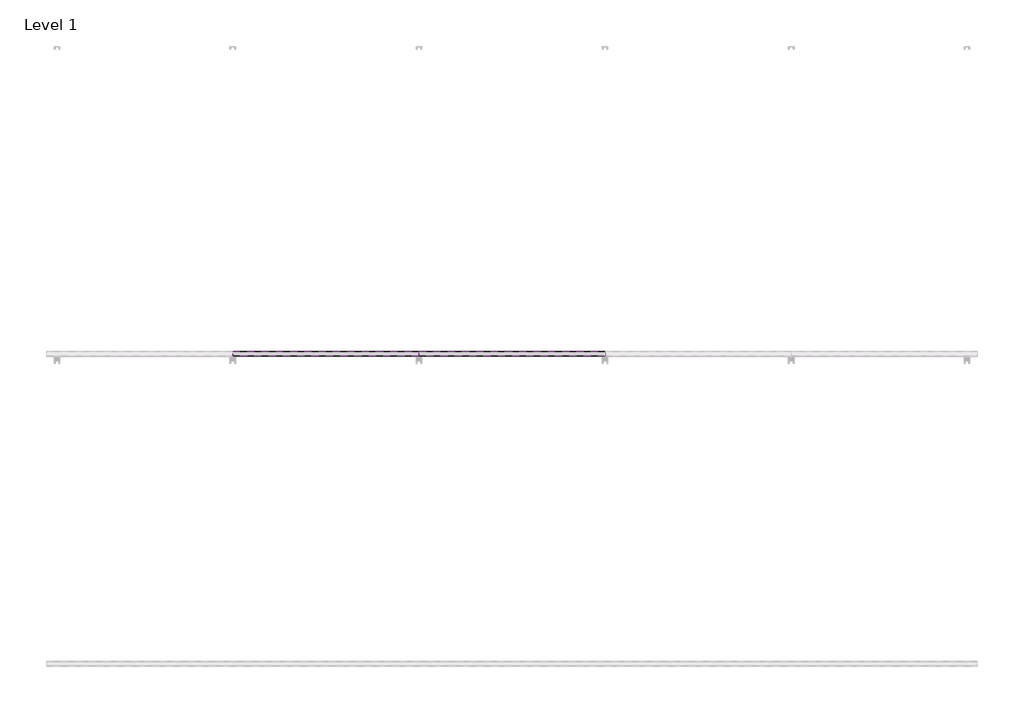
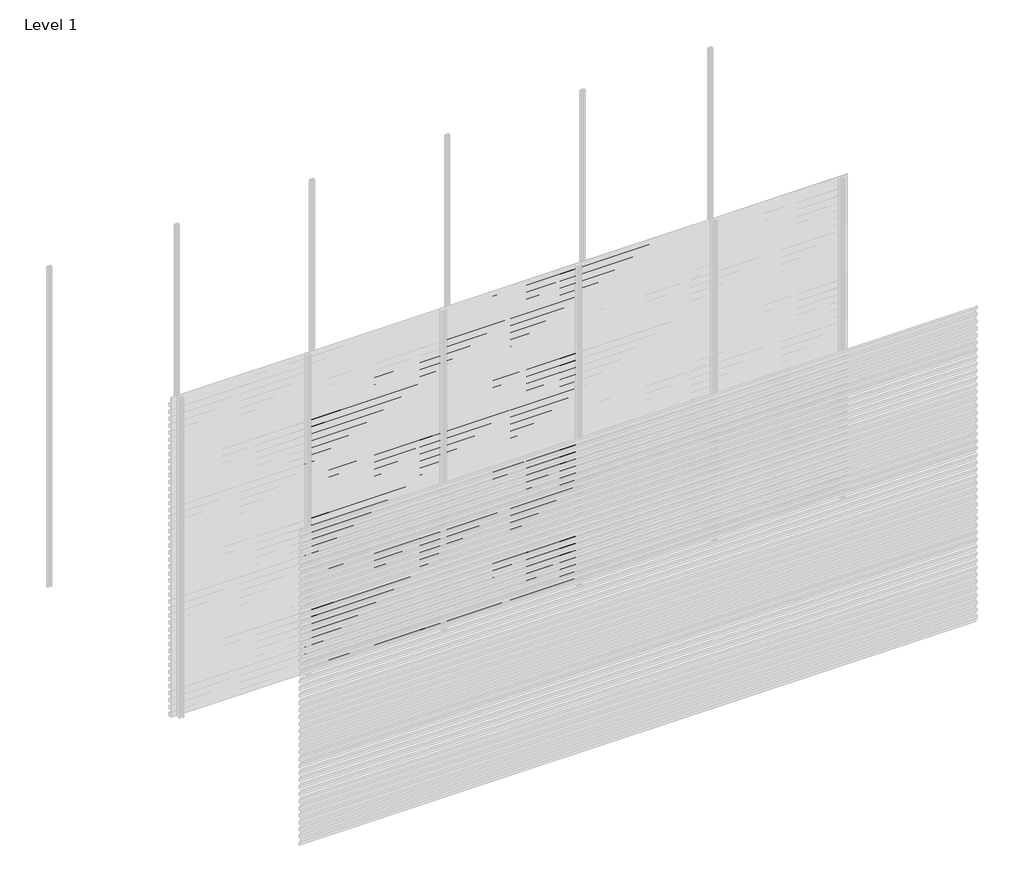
# One storey, part 26 of 33: 88 proxies.
"""IFC4 building model written with IfcOpenShell, lengths in millimetres."""

from ifc_helpers import new_model, si_unit, frame, origin, place, context, project, spatial, polyline, outline, extrude, element, save

model = new_model("IFC4")

# Units and contexts
model_context = context("Model", 3, world=origin())
ifc_project = project(units=[si_unit("LENGTHUNIT", "METRE", prefix="MILLI")], contexts=[model_context])

# Site, building, storey
site = spatial("IfcSite", under=ifc_project)
building = spatial("IfcBuilding", under=site)
storey = spatial("IfcBuildingStorey", under=building, Name="Level 1", Elevation=0.0)

# Proxies
placement = place(None, origin())
element("IfcBuildingElementProxy", 1, Name="Wall Sweeps", at=placement, inside=storey, context=model_context, shape_type="SweptSolid", body=[
    extrude(outline(polyline([(-11967.0, 2534.0), (-11967.0, 2501.0), (-11968.25, 2501.7216933), (-11968.25, 2533.2872415), (-11998.0, 2554.0588647), (-11998.0, 2574.0), (-11996.75, 2574.0), (-11996.75, 2554.7716232), (-11967.0, 2534.0)])), frame((1200.0, 0.0, 0.0), z_axis=(1.0, 0.0, 0.0), x_axis=(0.0, 1.0, 0.0)), (0.0, 0.0, 1.0), 1200.0),
])
element("IfcBuildingElementProxy", 2, Name="Wall Sweeps", at=placement, inside=storey, context=model_context, shape_type="SweptSolid", body=[
    extrude(outline(polyline([(-11967.0, 2468.0), (-11967.0, 2435.0), (-11968.25, 2435.7216933), (-11968.25, 2467.2872415), (-11998.0, 2488.0588647), (-11998.0, 2508.0), (-11996.75, 2508.0), (-11996.75, 2488.7716232), (-11967.0, 2468.0)])), frame((1200.0, 0.0, 0.0), z_axis=(1.0, 0.0, 0.0), x_axis=(0.0, 1.0, 0.0)), (0.0, 0.0, 1.0), 1200.0),
])
element("IfcBuildingElementProxy", 3, Name="Wall Sweeps", at=placement, inside=storey, context=model_context, shape_type="SweptSolid", body=[
    extrude(outline(polyline([(-11967.0, 2402.0), (-11967.0, 2369.0), (-11968.25, 2369.7216933), (-11968.25, 2401.2872415), (-11998.0, 2422.0588647), (-11998.0, 2442.0), (-11996.75, 2442.0), (-11996.75, 2422.7716232), (-11967.0, 2402.0)])), frame((1200.0, 0.0, 0.0), z_axis=(1.0, 0.0, 0.0), x_axis=(0.0, 1.0, 0.0)), (0.0, 0.0, 1.0), 1200.0),
])
element("IfcBuildingElementProxy", 4, Name="Wall Sweeps", at=placement, inside=storey, context=model_context, shape_type="SweptSolid", body=[
    extrude(outline(polyline([(-11967.0, 2336.0), (-11967.0, 2303.0), (-11968.25, 2303.7216933), (-11968.25, 2335.2872415), (-11998.0, 2356.0588647), (-11998.0, 2376.0), (-11996.75, 2376.0), (-11996.75, 2356.7716232), (-11967.0, 2336.0)])), frame((1200.0, 0.0, 0.0), z_axis=(1.0, 0.0, 0.0), x_axis=(0.0, 1.0, 0.0)), (0.0, 0.0, 1.0), 1200.0),
])
element("IfcBuildingElementProxy", 5, Name="Wall Sweeps", at=placement, inside=storey, context=model_context, shape_type="SweptSolid", body=[
    extrude(outline(polyline([(-11967.0, 2270.0), (-11967.0, 2237.0), (-11968.25, 2237.7216933), (-11968.25, 2269.2872415), (-11998.0, 2290.0588647), (-11998.0, 2310.0), (-11996.75, 2310.0), (-11996.75, 2290.7716232), (-11967.0, 2270.0)])), frame((1200.0, 0.0, 0.0), z_axis=(1.0, 0.0, 0.0), x_axis=(0.0, 1.0, 0.0)), (0.0, 0.0, 1.0), 1200.0),
])
element("IfcBuildingElementProxy", 6, Name="Wall Sweeps", at=placement, inside=storey, context=model_context, shape_type="SweptSolid", body=[
    extrude(outline(polyline([(-11967.0, 2204.0), (-11967.0, 2171.0), (-11968.25, 2171.7216933), (-11968.25, 2203.2872415), (-11998.0, 2224.0588647), (-11998.0, 2244.0), (-11996.75, 2244.0), (-11996.75, 2224.7716232), (-11967.0, 2204.0)])), frame((1200.0, 0.0, 0.0), z_axis=(1.0, 0.0, 0.0), x_axis=(0.0, 1.0, 0.0)), (0.0, 0.0, 1.0), 1200.0),
])
element("IfcBuildingElementProxy", 7, Name="Wall Sweeps", at=placement, inside=storey, context=model_context, shape_type="SweptSolid", body=[
    extrude(outline(polyline([(-11967.0, 2138.0), (-11967.0, 2105.0), (-11968.25, 2105.7216933), (-11968.25, 2137.2872415), (-11998.0, 2158.0588647), (-11998.0, 2178.0), (-11996.75, 2178.0), (-11996.75, 2158.7716232), (-11967.0, 2138.0)])), frame((1200.0, 0.0, 0.0), z_axis=(1.0, 0.0, 0.0), x_axis=(0.0, 1.0, 0.0)), (0.0, 0.0, 1.0), 1200.0),
])
element("IfcBuildingElementProxy", 8, Name="Wall Sweeps", at=placement, inside=storey, context=model_context, shape_type="SweptSolid", body=[
    extrude(outline(polyline([(-11967.0, 2072.0), (-11967.0, 2039.0), (-11968.25, 2039.7216933), (-11968.25, 2071.2872415), (-11998.0, 2092.0588647), (-11998.0, 2112.0), (-11996.75, 2112.0), (-11996.75, 2092.7716232), (-11967.0, 2072.0)])), frame((1200.0, 0.0, 0.0), z_axis=(1.0, 0.0, 0.0), x_axis=(0.0, 1.0, 0.0)), (0.0, 0.0, 1.0), 1200.0),
])
element("IfcBuildingElementProxy", 9, Name="Wall Sweeps", at=placement, inside=storey, context=model_context, shape_type="SweptSolid", body=[
    extrude(outline(polyline([(-11967.0, 2006.0), (-11967.0, 1973.0), (-11968.25, 1973.7216933), (-11968.25, 2005.2872415), (-11998.0, 2026.0588647), (-11998.0, 2046.0), (-11996.75, 2046.0), (-11996.75, 2026.7716232), (-11967.0, 2006.0)])), frame((1200.0, 0.0, 0.0), z_axis=(1.0, 0.0, 0.0), x_axis=(0.0, 1.0, 0.0)), (0.0, 0.0, 1.0), 1200.0),
])
element("IfcBuildingElementProxy", 10, Name="Wall Sweeps", at=placement, inside=storey, context=model_context, shape_type="SweptSolid", body=[
    extrude(outline(polyline([(-11967.0, 1940.0), (-11967.0, 1907.0), (-11968.25, 1907.7216933), (-11968.25, 1939.2872415), (-11998.0, 1960.0588647), (-11998.0, 1980.0), (-11996.75, 1980.0), (-11996.75, 1960.7716232), (-11967.0, 1940.0)])), frame((1200.0, 0.0, 0.0), z_axis=(1.0, 0.0, 0.0), x_axis=(0.0, 1.0, 0.0)), (0.0, 0.0, 1.0), 1200.0),
])
element("IfcBuildingElementProxy", 11, Name="Wall Sweeps", at=placement, inside=storey, context=model_context, shape_type="SweptSolid", body=[
    extrude(outline(polyline([(-11967.0, 1874.0), (-11967.0, 1841.0), (-11968.25, 1841.7216933), (-11968.25, 1873.2872415), (-11998.0, 1894.0588647), (-11998.0, 1914.0), (-11996.75, 1914.0), (-11996.75, 1894.7716232), (-11967.0, 1874.0)])), frame((1200.0, 0.0, 0.0), z_axis=(1.0, 0.0, 0.0), x_axis=(0.0, 1.0, 0.0)), (0.0, 0.0, 1.0), 1200.0),
])
element("IfcBuildingElementProxy", 12, Name="Wall Sweeps", at=placement, inside=storey, context=model_context, shape_type="SweptSolid", body=[
    extrude(outline(polyline([(-11967.0, 1808.0), (-11967.0, 1775.0), (-11968.25, 1775.7216933), (-11968.25, 1807.2872415), (-11998.0, 1828.0588647), (-11998.0, 1848.0), (-11996.75, 1848.0), (-11996.75, 1828.7716232), (-11967.0, 1808.0)])), frame((1200.0, 0.0, 0.0), z_axis=(1.0, 0.0, 0.0), x_axis=(0.0, 1.0, 0.0)), (0.0, 0.0, 1.0), 1200.0),
])
element("IfcBuildingElementProxy", 13, Name="Wall Sweeps", at=placement, inside=storey, context=model_context, shape_type="SweptSolid", body=[
    extrude(outline(polyline([(-11967.0, 1742.0), (-11967.0, 1709.0), (-11968.25, 1709.7216933), (-11968.25, 1741.2872415), (-11998.0, 1762.0588647), (-11998.0, 1782.0), (-11996.75, 1782.0), (-11996.75, 1762.7716232), (-11967.0, 1742.0)])), frame((1200.0, 0.0, 0.0), z_axis=(1.0, 0.0, 0.0), x_axis=(0.0, 1.0, 0.0)), (0.0, 0.0, 1.0), 1200.0),
])
element("IfcBuildingElementProxy", 14, Name="Wall Sweeps", at=placement, inside=storey, context=model_context, shape_type="SweptSolid", body=[
    extrude(outline(polyline([(-11967.0, 1676.0), (-11967.0, 1643.0), (-11968.25, 1643.7216933), (-11968.25, 1675.2872415), (-11998.0, 1696.0588647), (-11998.0, 1716.0), (-11996.75, 1716.0), (-11996.75, 1696.7716232), (-11967.0, 1676.0)])), frame((1200.0, 0.0, 0.0), z_axis=(1.0, 0.0, 0.0), x_axis=(0.0, 1.0, 0.0)), (0.0, 0.0, 1.0), 1200.0),
])
element("IfcBuildingElementProxy", 15, Name="Wall Sweeps", at=placement, inside=storey, context=model_context, shape_type="SweptSolid", body=[
    extrude(outline(polyline([(-11967.0, 1610.0), (-11967.0, 1577.0), (-11968.25, 1577.7216933), (-11968.25, 1609.2872415), (-11998.0, 1630.0588647), (-11998.0, 1650.0), (-11996.75, 1650.0), (-11996.75, 1630.7716232), (-11967.0, 1610.0)])), frame((1200.0, 0.0, 0.0), z_axis=(1.0, 0.0, 0.0), x_axis=(0.0, 1.0, 0.0)), (0.0, 0.0, 1.0), 1200.0),
])
element("IfcBuildingElementProxy", 16, Name="Wall Sweeps", at=placement, inside=storey, context=model_context, shape_type="SweptSolid", body=[
    extrude(outline(polyline([(-11967.0, 1544.0), (-11967.0, 1511.0), (-11968.25, 1511.7216933), (-11968.25, 1543.2872415), (-11998.0, 1564.0588647), (-11998.0, 1584.0), (-11996.75, 1584.0), (-11996.75, 1564.7716232), (-11967.0, 1544.0)])), frame((1200.0, 0.0, 0.0), z_axis=(1.0, 0.0, 0.0), x_axis=(0.0, 1.0, 0.0)), (0.0, 0.0, 1.0), 1200.0),
])
element("IfcBuildingElementProxy", 17, Name="Wall Sweeps", at=placement, inside=storey, context=model_context, shape_type="SweptSolid", body=[
    extrude(outline(polyline([(-11967.0, 1478.0), (-11967.0, 1445.0), (-11968.25, 1445.7216933), (-11968.25, 1477.2872415), (-11998.0, 1498.0588647), (-11998.0, 1518.0), (-11996.75, 1518.0), (-11996.75, 1498.7716232), (-11967.0, 1478.0)])), frame((1200.0, 0.0, 0.0), z_axis=(1.0, 0.0, 0.0), x_axis=(0.0, 1.0, 0.0)), (0.0, 0.0, 1.0), 1200.0),
])
element("IfcBuildingElementProxy", 18, Name="Wall Sweeps", at=placement, inside=storey, context=model_context, shape_type="SweptSolid", body=[
    extrude(outline(polyline([(-11967.0, 1412.0), (-11967.0, 1379.0), (-11968.25, 1379.7216933), (-11968.25, 1411.2872415), (-11998.0, 1432.0588647), (-11998.0, 1452.0), (-11996.75, 1452.0), (-11996.75, 1432.7716232), (-11967.0, 1412.0)])), frame((1200.0, 0.0, 0.0), z_axis=(1.0, 0.0, 0.0), x_axis=(0.0, 1.0, 0.0)), (0.0, 0.0, 1.0), 1200.0),
])
element("IfcBuildingElementProxy", 19, Name="Wall Sweeps", at=placement, inside=storey, context=model_context, shape_type="SweptSolid", body=[
    extrude(outline(polyline([(-11967.0, 1346.0), (-11967.0, 1313.0), (-11968.25, 1313.7216933), (-11968.25, 1345.2872415), (-11998.0, 1366.0588647), (-11998.0, 1386.0), (-11996.75, 1386.0), (-11996.75, 1366.7716232), (-11967.0, 1346.0)])), frame((1200.0, 0.0, 0.0), z_axis=(1.0, 0.0, 0.0), x_axis=(0.0, 1.0, 0.0)), (0.0, 0.0, 1.0), 1200.0),
])
element("IfcBuildingElementProxy", 20, Name="Wall Sweeps", at=placement, inside=storey, context=model_context, shape_type="SweptSolid", body=[
    extrude(outline(polyline([(-11967.0, 1280.0), (-11967.0, 1247.0), (-11968.25, 1247.7216933), (-11968.25, 1279.2872415), (-11998.0, 1300.0588647), (-11998.0, 1320.0), (-11996.75, 1320.0), (-11996.75, 1300.7716232), (-11967.0, 1280.0)])), frame((1200.0, 0.0, 0.0), z_axis=(1.0, 0.0, 0.0), x_axis=(0.0, 1.0, 0.0)), (0.0, 0.0, 1.0), 1200.0),
])
element("IfcBuildingElementProxy", 21, Name="Wall Sweeps", at=placement, inside=storey, context=model_context, shape_type="SweptSolid", body=[
    extrude(outline(polyline([(-11967.0, 1214.0), (-11967.0, 1181.0), (-11968.25, 1181.7216933), (-11968.25, 1213.2872415), (-11998.0, 1234.0588647), (-11998.0, 1254.0), (-11996.75, 1254.0), (-11996.75, 1234.7716232), (-11967.0, 1214.0)])), frame((1200.0, 0.0, 0.0), z_axis=(1.0, 0.0, 0.0), x_axis=(0.0, 1.0, 0.0)), (0.0, 0.0, 1.0), 1200.0),
])
element("IfcBuildingElementProxy", 22, Name="Wall Sweeps", at=placement, inside=storey, context=model_context, shape_type="SweptSolid", body=[
    extrude(outline(polyline([(-11967.0, 1148.0), (-11967.0, 1115.0), (-11968.25, 1115.7216933), (-11968.25, 1147.2872415), (-11998.0, 1168.0588647), (-11998.0, 1188.0), (-11996.75, 1188.0), (-11996.75, 1168.7716232), (-11967.0, 1148.0)])), frame((1200.0, 0.0, 0.0), z_axis=(1.0, 0.0, 0.0), x_axis=(0.0, 1.0, 0.0)), (0.0, 0.0, 1.0), 1200.0),
])
element("IfcBuildingElementProxy", 23, Name="Wall Sweeps", at=placement, inside=storey, context=model_context, shape_type="SweptSolid", body=[
    extrude(outline(polyline([(-11967.0, 1082.0), (-11967.0, 1049.0), (-11968.25, 1049.7216933), (-11968.25, 1081.2872415), (-11998.0, 1102.0588647), (-11998.0, 1122.0), (-11996.75, 1122.0), (-11996.75, 1102.7716232), (-11967.0, 1082.0)])), frame((1200.0, 0.0, 0.0), z_axis=(1.0, 0.0, 0.0), x_axis=(0.0, 1.0, 0.0)), (0.0, 0.0, 1.0), 1200.0),
])
element("IfcBuildingElementProxy", 24, Name="Wall Sweeps", at=placement, inside=storey, context=model_context, shape_type="SweptSolid", body=[
    extrude(outline(polyline([(-11967.0, 1016.0), (-11967.0, 983.0), (-11968.25, 983.7216933), (-11968.25, 1015.2872415), (-11998.0, 1036.0588647), (-11998.0, 1056.0), (-11996.75, 1056.0), (-11996.75, 1036.7716232), (-11967.0, 1016.0)])), frame((1200.0, 0.0, 0.0), z_axis=(1.0, 0.0, 0.0), x_axis=(0.0, 1.0, 0.0)), (0.0, 0.0, 1.0), 1200.0),
])
element("IfcBuildingElementProxy", 25, Name="Wall Sweeps", at=placement, inside=storey, context=model_context, shape_type="SweptSolid", body=[
    extrude(outline(polyline([(-11967.0, 950.0), (-11967.0, 917.0), (-11968.25, 917.7216933), (-11968.25, 949.2872415), (-11998.0, 970.0588647), (-11998.0, 990.0), (-11996.75, 990.0), (-11996.75, 970.7716232), (-11967.0, 950.0)])), frame((1200.0, 0.0, 0.0), z_axis=(1.0, 0.0, 0.0), x_axis=(0.0, 1.0, 0.0)), (0.0, 0.0, 1.0), 1200.0),
])
element("IfcBuildingElementProxy", 26, Name="Wall Sweeps", at=placement, inside=storey, context=model_context, shape_type="SweptSolid", body=[
    extrude(outline(polyline([(-11967.0, 884.0), (-11967.0, 851.0), (-11968.25, 851.7216933), (-11968.25, 883.2872415), (-11998.0, 904.0588647), (-11998.0, 924.0), (-11996.75, 924.0), (-11996.75, 904.7716232), (-11967.0, 884.0)])), frame((1200.0, 0.0, 0.0), z_axis=(1.0, 0.0, 0.0), x_axis=(0.0, 1.0, 0.0)), (0.0, 0.0, 1.0), 1200.0),
])
element("IfcBuildingElementProxy", 27, Name="Wall Sweeps", at=placement, inside=storey, context=model_context, shape_type="SweptSolid", body=[
    extrude(outline(polyline([(-11967.0, 818.0), (-11967.0, 785.0), (-11968.25, 785.7216933), (-11968.25, 817.2872415), (-11998.0, 838.0588647), (-11998.0, 858.0), (-11996.75, 858.0), (-11996.75, 838.7716232), (-11967.0, 818.0)])), frame((1200.0, 0.0, 0.0), z_axis=(1.0, 0.0, 0.0), x_axis=(0.0, 1.0, 0.0)), (0.0, 0.0, 1.0), 1200.0),
])
element("IfcBuildingElementProxy", 28, Name="Wall Sweeps", at=placement, inside=storey, context=model_context, shape_type="SweptSolid", body=[
    extrude(outline(polyline([(-11967.0, 752.0), (-11967.0, 719.0), (-11968.25, 719.7216933), (-11968.25, 751.2872415), (-11998.0, 772.0588647), (-11998.0, 792.0), (-11996.75, 792.0), (-11996.75, 772.7716232), (-11967.0, 752.0)])), frame((1200.0, 0.0, 0.0), z_axis=(1.0, 0.0, 0.0), x_axis=(0.0, 1.0, 0.0)), (0.0, 0.0, 1.0), 1200.0),
])
element("IfcBuildingElementProxy", 29, Name="Wall Sweeps", at=placement, inside=storey, context=model_context, shape_type="SweptSolid", body=[
    extrude(outline(polyline([(-11967.0, 686.0), (-11967.0, 653.0), (-11968.25, 653.7216933), (-11968.25, 685.2872415), (-11998.0, 706.0588647), (-11998.0, 726.0), (-11996.75, 726.0), (-11996.75, 706.7716232), (-11967.0, 686.0)])), frame((1200.0, 0.0, 0.0), z_axis=(1.0, 0.0, 0.0), x_axis=(0.0, 1.0, 0.0)), (0.0, 0.0, 1.0), 1200.0),
])
element("IfcBuildingElementProxy", 30, Name="Wall Sweeps", at=placement, inside=storey, context=model_context, shape_type="SweptSolid", body=[
    extrude(outline(polyline([(-11967.0, 620.0), (-11967.0, 587.0), (-11968.25, 587.7216933), (-11968.25, 619.2872415), (-11998.0, 640.0588647), (-11998.0, 660.0), (-11996.75, 660.0), (-11996.75, 640.7716232), (-11967.0, 620.0)])), frame((1200.0, 0.0, 0.0), z_axis=(1.0, 0.0, 0.0), x_axis=(0.0, 1.0, 0.0)), (0.0, 0.0, 1.0), 1200.0),
])
element("IfcBuildingElementProxy", 31, Name="Wall Sweeps", at=placement, inside=storey, context=model_context, shape_type="SweptSolid", body=[
    extrude(outline(polyline([(-11967.0, 554.0), (-11967.0, 521.0), (-11968.25, 521.7216933), (-11968.25, 553.2872415), (-11998.0, 574.0588647), (-11998.0, 594.0), (-11996.75, 594.0), (-11996.75, 574.7716232), (-11967.0, 554.0)])), frame((1200.0, 0.0, 0.0), z_axis=(1.0, 0.0, 0.0), x_axis=(0.0, 1.0, 0.0)), (0.0, 0.0, 1.0), 1200.0),
])
element("IfcBuildingElementProxy", 32, Name="Wall Sweeps", at=placement, inside=storey, context=model_context, shape_type="SweptSolid", body=[
    extrude(outline(polyline([(-11967.0, 488.0), (-11967.0, 455.0), (-11968.25, 455.7216933), (-11968.25, 487.2872415), (-11998.0, 508.0588647), (-11998.0, 528.0), (-11996.75, 528.0), (-11996.75, 508.7716232), (-11967.0, 488.0)])), frame((1200.0, 0.0, 0.0), z_axis=(1.0, 0.0, 0.0), x_axis=(0.0, 1.0, 0.0)), (0.0, 0.0, 1.0), 1200.0),
])
element("IfcBuildingElementProxy", 33, Name="Wall Sweeps", at=placement, inside=storey, context=model_context, shape_type="SweptSolid", body=[
    extrude(outline(polyline([(-11967.0, 422.0), (-11967.0, 389.0), (-11968.25, 389.7216933), (-11968.25, 421.2872415), (-11998.0, 442.0588647), (-11998.0, 462.0), (-11996.75, 462.0), (-11996.75, 442.7716232), (-11967.0, 422.0)])), frame((1200.0, 0.0, 0.0), z_axis=(1.0, 0.0, 0.0), x_axis=(0.0, 1.0, 0.0)), (0.0, 0.0, 1.0), 1200.0),
])
element("IfcBuildingElementProxy", 34, Name="Wall Sweeps", at=placement, inside=storey, context=model_context, shape_type="SweptSolid", body=[
    extrude(outline(polyline([(-11967.0, 356.0), (-11967.0, 323.0), (-11968.25, 323.7216933), (-11968.25, 355.2872415), (-11998.0, 376.0588647), (-11998.0, 396.0), (-11996.75, 396.0), (-11996.75, 376.7716232), (-11967.0, 356.0)])), frame((1200.0, 0.0, 0.0), z_axis=(1.0, 0.0, 0.0), x_axis=(0.0, 1.0, 0.0)), (0.0, 0.0, 1.0), 1200.0),
])
element("IfcBuildingElementProxy", 35, Name="Wall Sweeps", at=placement, inside=storey, context=model_context, shape_type="SweptSolid", body=[
    extrude(outline(polyline([(-11967.0, 290.0), (-11967.0, 257.0), (-11968.25, 257.7216933), (-11968.25, 289.2872415), (-11998.0, 310.0588647), (-11998.0, 330.0), (-11996.75, 330.0), (-11996.75, 310.7716232), (-11967.0, 290.0)])), frame((1200.0, 0.0, 0.0), z_axis=(1.0, 0.0, 0.0), x_axis=(0.0, 1.0, 0.0)), (0.0, 0.0, 1.0), 1200.0),
])
element("IfcBuildingElementProxy", 36, Name="Wall Sweeps", at=placement, inside=storey, context=model_context, shape_type="SweptSolid", body=[
    extrude(outline(polyline([(-11967.0, 224.0), (-11967.0, 191.0), (-11968.25, 191.7216933), (-11968.25, 223.2872415), (-11998.0, 244.0588647), (-11998.0, 264.0), (-11996.75, 264.0), (-11996.75, 244.7716232), (-11967.0, 224.0)])), frame((1200.0, 0.0, 0.0), z_axis=(1.0, 0.0, 0.0), x_axis=(0.0, 1.0, 0.0)), (0.0, 0.0, 1.0), 1200.0),
])
element("IfcBuildingElementProxy", 37, Name="Wall Sweeps", at=placement, inside=storey, context=model_context, shape_type="SweptSolid", body=[
    extrude(outline(polyline([(-11967.0, 158.0), (-11967.0, 125.0), (-11968.25, 125.7216933), (-11968.25, 157.2872415), (-11998.0, 178.0588647), (-11998.0, 198.0), (-11996.75, 198.0), (-11996.75, 178.7716232), (-11967.0, 158.0)])), frame((1200.0, 0.0, 0.0), z_axis=(1.0, 0.0, 0.0), x_axis=(0.0, 1.0, 0.0)), (0.0, 0.0, 1.0), 1200.0),
])
element("IfcBuildingElementProxy", 38, Name="Wall Sweeps", at=placement, inside=storey, context=model_context, shape_type="SweptSolid", body=[
    extrude(outline(polyline([(-11967.0, 92.0), (-11967.0, 59.0), (-11968.25, 59.7216933), (-11968.25, 91.2872415), (-11998.0, 112.0588647), (-11998.0, 132.0), (-11996.75, 132.0), (-11996.75, 112.7716232), (-11967.0, 92.0)])), frame((1200.0, 0.0, 0.0), z_axis=(1.0, 0.0, 0.0), x_axis=(0.0, 1.0, 0.0)), (0.0, 0.0, 1.0), 1200.0),
])
element("IfcBuildingElementProxy", 39, Name="Wall Sweeps", at=placement, inside=storey, context=model_context, shape_type="SweptSolid", body=[
    extrude(outline(polyline([(-11967.0, 26.0), (-11967.0, -7.0), (-11968.25, -6.2783067), (-11968.25, 25.2872415), (-11998.0, 46.0588647), (-11998.0, 66.0), (-11996.75, 66.0), (-11996.75, 46.7716232), (-11967.0, 26.0)])), frame((1200.0, 0.0, 0.0), z_axis=(1.0, 0.0, 0.0), x_axis=(0.0, 1.0, 0.0)), (0.0, 0.0, 1.0), 1200.0),
])
element("IfcBuildingElementProxy", 40, Name="Wall Sweeps", at=placement, inside=storey, context=model_context, shape_type="SweptSolid", body=[
    extrude(outline(polyline([(-11967.0, 2930.0), (-11967.0, 2897.0), (-11968.25, 2897.7216933), (-11968.25, 2929.2872415), (-11998.0, 2950.0588647), (-11998.0, 2970.0), (-11996.75, 2970.0), (-11996.75, 2950.7716232), (-11967.0, 2930.0)])), frame((2400.0, 0.0, 0.0), z_axis=(1.0, 0.0, 0.0), x_axis=(0.0, 1.0, 0.0)), (0.0, 0.0, 1.0), 1200.0),
])
element("IfcBuildingElementProxy", 41, Name="Wall Sweeps", at=placement, inside=storey, context=model_context, shape_type="SweptSolid", body=[
    extrude(outline(polyline([(-11967.0, 2864.0), (-11967.0, 2831.0), (-11968.25, 2831.7216933), (-11968.25, 2863.2872415), (-11998.0, 2884.0588647), (-11998.0, 2904.0), (-11996.75, 2904.0), (-11996.75, 2884.7716232), (-11967.0, 2864.0)])), frame((2400.0, 0.0, 0.0), z_axis=(1.0, 0.0, 0.0), x_axis=(0.0, 1.0, 0.0)), (0.0, 0.0, 1.0), 1200.0),
])
element("IfcBuildingElementProxy", 42, Name="Wall Sweeps", at=placement, inside=storey, context=model_context, shape_type="SweptSolid", body=[
    extrude(outline(polyline([(-11967.0, 2798.0), (-11967.0, 2765.0), (-11968.25, 2765.7216933), (-11968.25, 2797.2872415), (-11998.0, 2818.0588647), (-11998.0, 2838.0), (-11996.75, 2838.0), (-11996.75, 2818.7716232), (-11967.0, 2798.0)])), frame((2400.0, 0.0, 0.0), z_axis=(1.0, 0.0, 0.0), x_axis=(0.0, 1.0, 0.0)), (0.0, 0.0, 1.0), 1200.0),
])
element("IfcBuildingElementProxy", 43, Name="Wall Sweeps", at=placement, inside=storey, context=model_context, shape_type="SweptSolid", body=[
    extrude(outline(polyline([(-11967.0, 2732.0), (-11967.0, 2699.0), (-11968.25, 2699.7216933), (-11968.25, 2731.2872415), (-11998.0, 2752.0588647), (-11998.0, 2772.0), (-11996.75, 2772.0), (-11996.75, 2752.7716232), (-11967.0, 2732.0)])), frame((2400.0, 0.0, 0.0), z_axis=(1.0, 0.0, 0.0), x_axis=(0.0, 1.0, 0.0)), (0.0, 0.0, 1.0), 1200.0),
])
element("IfcBuildingElementProxy", 44, Name="Wall Sweeps", at=placement, inside=storey, context=model_context, shape_type="SweptSolid", body=[
    extrude(outline(polyline([(-11967.0, 2666.0), (-11967.0, 2633.0), (-11968.25, 2633.7216933), (-11968.25, 2665.2872415), (-11998.0, 2686.0588647), (-11998.0, 2706.0), (-11996.75, 2706.0), (-11996.75, 2686.7716232), (-11967.0, 2666.0)])), frame((2400.0, 0.0, 0.0), z_axis=(1.0, 0.0, 0.0), x_axis=(0.0, 1.0, 0.0)), (0.0, 0.0, 1.0), 1200.0),
])
element("IfcBuildingElementProxy", 45, Name="Wall Sweeps", at=placement, inside=storey, context=model_context, shape_type="SweptSolid", body=[
    extrude(outline(polyline([(-11967.0, 2600.0), (-11967.0, 2567.0), (-11968.25, 2567.7216933), (-11968.25, 2599.2872415), (-11998.0, 2620.0588647), (-11998.0, 2640.0), (-11996.75, 2640.0), (-11996.75, 2620.7716232), (-11967.0, 2600.0)])), frame((2400.0, 0.0, 0.0), z_axis=(1.0, 0.0, 0.0), x_axis=(0.0, 1.0, 0.0)), (0.0, 0.0, 1.0), 1200.0),
])
element("IfcBuildingElementProxy", 46, Name="Wall Sweeps", at=placement, inside=storey, context=model_context, shape_type="SweptSolid", body=[
    extrude(outline(polyline([(-11967.0, 2534.0), (-11967.0, 2501.0), (-11968.25, 2501.7216933), (-11968.25, 2533.2872415), (-11998.0, 2554.0588647), (-11998.0, 2574.0), (-11996.75, 2574.0), (-11996.75, 2554.7716232), (-11967.0, 2534.0)])), frame((2400.0, 0.0, 0.0), z_axis=(1.0, 0.0, 0.0), x_axis=(0.0, 1.0, 0.0)), (0.0, 0.0, 1.0), 1200.0),
])
element("IfcBuildingElementProxy", 47, Name="Wall Sweeps", at=placement, inside=storey, context=model_context, shape_type="SweptSolid", body=[
    extrude(outline(polyline([(-11967.0, 2468.0), (-11967.0, 2435.0), (-11968.25, 2435.7216933), (-11968.25, 2467.2872415), (-11998.0, 2488.0588647), (-11998.0, 2508.0), (-11996.75, 2508.0), (-11996.75, 2488.7716232), (-11967.0, 2468.0)])), frame((2400.0, 0.0, 0.0), z_axis=(1.0, 0.0, 0.0), x_axis=(0.0, 1.0, 0.0)), (0.0, 0.0, 1.0), 1200.0),
])
element("IfcBuildingElementProxy", 48, Name="Wall Sweeps", at=placement, inside=storey, context=model_context, shape_type="SweptSolid", body=[
    extrude(outline(polyline([(-11967.0, 2402.0), (-11967.0, 2369.0), (-11968.25, 2369.7216933), (-11968.25, 2401.2872415), (-11998.0, 2422.0588647), (-11998.0, 2442.0), (-11996.75, 2442.0), (-11996.75, 2422.7716232), (-11967.0, 2402.0)])), frame((2400.0, 0.0, 0.0), z_axis=(1.0, 0.0, 0.0), x_axis=(0.0, 1.0, 0.0)), (0.0, 0.0, 1.0), 1200.0),
])
element("IfcBuildingElementProxy", 49, Name="Wall Sweeps", at=placement, inside=storey, context=model_context, shape_type="SweptSolid", body=[
    extrude(outline(polyline([(-11967.0, 2336.0), (-11967.0, 2303.0), (-11968.25, 2303.7216933), (-11968.25, 2335.2872415), (-11998.0, 2356.0588647), (-11998.0, 2376.0), (-11996.75, 2376.0), (-11996.75, 2356.7716232), (-11967.0, 2336.0)])), frame((2400.0, 0.0, 0.0), z_axis=(1.0, 0.0, 0.0), x_axis=(0.0, 1.0, 0.0)), (0.0, 0.0, 1.0), 1200.0),
])
element("IfcBuildingElementProxy", 50, Name="Wall Sweeps", at=placement, inside=storey, context=model_context, shape_type="SweptSolid", body=[
    extrude(outline(polyline([(-11967.0, 2270.0), (-11967.0, 2237.0), (-11968.25, 2237.7216933), (-11968.25, 2269.2872415), (-11998.0, 2290.0588647), (-11998.0, 2310.0), (-11996.75, 2310.0), (-11996.75, 2290.7716232), (-11967.0, 2270.0)])), frame((2400.0, 0.0, 0.0), z_axis=(1.0, 0.0, 0.0), x_axis=(0.0, 1.0, 0.0)), (0.0, 0.0, 1.0), 1200.0),
])
element("IfcBuildingElementProxy", 51, Name="Wall Sweeps", at=placement, inside=storey, context=model_context, shape_type="SweptSolid", body=[
    extrude(outline(polyline([(-11967.0, 2204.0), (-11967.0, 2171.0), (-11968.25, 2171.7216933), (-11968.25, 2203.2872415), (-11998.0, 2224.0588647), (-11998.0, 2244.0), (-11996.75, 2244.0), (-11996.75, 2224.7716232), (-11967.0, 2204.0)])), frame((2400.0, 0.0, 0.0), z_axis=(1.0, 0.0, 0.0), x_axis=(0.0, 1.0, 0.0)), (0.0, 0.0, 1.0), 1200.0),
])
element("IfcBuildingElementProxy", 52, Name="Wall Sweeps", at=placement, inside=storey, context=model_context, shape_type="SweptSolid", body=[
    extrude(outline(polyline([(-11967.0, 2138.0), (-11967.0, 2105.0), (-11968.25, 2105.7216933), (-11968.25, 2137.2872415), (-11998.0, 2158.0588647), (-11998.0, 2178.0), (-11996.75, 2178.0), (-11996.75, 2158.7716232), (-11967.0, 2138.0)])), frame((2400.0, 0.0, 0.0), z_axis=(1.0, 0.0, 0.0), x_axis=(0.0, 1.0, 0.0)), (0.0, 0.0, 1.0), 1200.0),
])
element("IfcBuildingElementProxy", 53, Name="Wall Sweeps", at=placement, inside=storey, context=model_context, shape_type="SweptSolid", body=[
    extrude(outline(polyline([(-11967.0, 2072.0), (-11967.0, 2039.0), (-11968.25, 2039.7216933), (-11968.25, 2071.2872415), (-11998.0, 2092.0588647), (-11998.0, 2112.0), (-11996.75, 2112.0), (-11996.75, 2092.7716232), (-11967.0, 2072.0)])), frame((2400.0, 0.0, 0.0), z_axis=(1.0, 0.0, 0.0), x_axis=(0.0, 1.0, 0.0)), (0.0, 0.0, 1.0), 1200.0),
])
element("IfcBuildingElementProxy", 54, Name="Wall Sweeps", at=placement, inside=storey, context=model_context, shape_type="SweptSolid", body=[
    extrude(outline(polyline([(-11967.0, 2006.0), (-11967.0, 1973.0), (-11968.25, 1973.7216933), (-11968.25, 2005.2872415), (-11998.0, 2026.0588647), (-11998.0, 2046.0), (-11996.75, 2046.0), (-11996.75, 2026.7716232), (-11967.0, 2006.0)])), frame((2400.0, 0.0, 0.0), z_axis=(1.0, 0.0, 0.0), x_axis=(0.0, 1.0, 0.0)), (0.0, 0.0, 1.0), 1200.0),
])
element("IfcBuildingElementProxy", 55, Name="Wall Sweeps", at=placement, inside=storey, context=model_context, shape_type="SweptSolid", body=[
    extrude(outline(polyline([(-11967.0, 1940.0), (-11967.0, 1907.0), (-11968.25, 1907.7216933), (-11968.25, 1939.2872415), (-11998.0, 1960.0588647), (-11998.0, 1980.0), (-11996.75, 1980.0), (-11996.75, 1960.7716232), (-11967.0, 1940.0)])), frame((2400.0, 0.0, 0.0), z_axis=(1.0, 0.0, 0.0), x_axis=(0.0, 1.0, 0.0)), (0.0, 0.0, 1.0), 1200.0),
])
element("IfcBuildingElementProxy", 56, Name="Wall Sweeps", at=placement, inside=storey, context=model_context, shape_type="SweptSolid", body=[
    extrude(outline(polyline([(-11967.0, 1874.0), (-11967.0, 1841.0), (-11968.25, 1841.7216933), (-11968.25, 1873.2872415), (-11998.0, 1894.0588647), (-11998.0, 1914.0), (-11996.75, 1914.0), (-11996.75, 1894.7716232), (-11967.0, 1874.0)])), frame((2400.0, 0.0, 0.0), z_axis=(1.0, 0.0, 0.0), x_axis=(0.0, 1.0, 0.0)), (0.0, 0.0, 1.0), 1200.0),
])
element("IfcBuildingElementProxy", 57, Name="Wall Sweeps", at=placement, inside=storey, context=model_context, shape_type="SweptSolid", body=[
    extrude(outline(polyline([(-11967.0, 1808.0), (-11967.0, 1775.0), (-11968.25, 1775.7216933), (-11968.25, 1807.2872415), (-11998.0, 1828.0588647), (-11998.0, 1848.0), (-11996.75, 1848.0), (-11996.75, 1828.7716232), (-11967.0, 1808.0)])), frame((2400.0, 0.0, 0.0), z_axis=(1.0, 0.0, 0.0), x_axis=(0.0, 1.0, 0.0)), (0.0, 0.0, 1.0), 1200.0),
])
element("IfcBuildingElementProxy", 58, Name="Wall Sweeps", at=placement, inside=storey, context=model_context, shape_type="SweptSolid", body=[
    extrude(outline(polyline([(-11967.0, 1742.0), (-11967.0, 1709.0), (-11968.25, 1709.7216933), (-11968.25, 1741.2872415), (-11998.0, 1762.0588647), (-11998.0, 1782.0), (-11996.75, 1782.0), (-11996.75, 1762.7716232), (-11967.0, 1742.0)])), frame((2400.0, 0.0, 0.0), z_axis=(1.0, 0.0, 0.0), x_axis=(0.0, 1.0, 0.0)), (0.0, 0.0, 1.0), 1200.0),
])
element("IfcBuildingElementProxy", 59, Name="Wall Sweeps", at=placement, inside=storey, context=model_context, shape_type="SweptSolid", body=[
    extrude(outline(polyline([(-11967.0, 1676.0), (-11967.0, 1643.0), (-11968.25, 1643.7216933), (-11968.25, 1675.2872415), (-11998.0, 1696.0588647), (-11998.0, 1716.0), (-11996.75, 1716.0), (-11996.75, 1696.7716232), (-11967.0, 1676.0)])), frame((2400.0, 0.0, 0.0), z_axis=(1.0, 0.0, 0.0), x_axis=(0.0, 1.0, 0.0)), (0.0, 0.0, 1.0), 1200.0),
])
element("IfcBuildingElementProxy", 60, Name="Wall Sweeps", at=placement, inside=storey, context=model_context, shape_type="SweptSolid", body=[
    extrude(outline(polyline([(-11967.0, 1610.0), (-11967.0, 1577.0), (-11968.25, 1577.7216933), (-11968.25, 1609.2872415), (-11998.0, 1630.0588647), (-11998.0, 1650.0), (-11996.75, 1650.0), (-11996.75, 1630.7716232), (-11967.0, 1610.0)])), frame((2400.0, 0.0, 0.0), z_axis=(1.0, 0.0, 0.0), x_axis=(0.0, 1.0, 0.0)), (0.0, 0.0, 1.0), 1200.0),
])
element("IfcBuildingElementProxy", 61, Name="Wall Sweeps", at=placement, inside=storey, context=model_context, shape_type="SweptSolid", body=[
    extrude(outline(polyline([(-11967.0, 1544.0), (-11967.0, 1511.0), (-11968.25, 1511.7216933), (-11968.25, 1543.2872415), (-11998.0, 1564.0588647), (-11998.0, 1584.0), (-11996.75, 1584.0), (-11996.75, 1564.7716232), (-11967.0, 1544.0)])), frame((2400.0, 0.0, 0.0), z_axis=(1.0, 0.0, 0.0), x_axis=(0.0, 1.0, 0.0)), (0.0, 0.0, 1.0), 1200.0),
])
element("IfcBuildingElementProxy", 62, Name="Wall Sweeps", at=placement, inside=storey, context=model_context, shape_type="SweptSolid", body=[
    extrude(outline(polyline([(-11967.0, 1478.0), (-11967.0, 1445.0), (-11968.25, 1445.7216933), (-11968.25, 1477.2872415), (-11998.0, 1498.0588647), (-11998.0, 1518.0), (-11996.75, 1518.0), (-11996.75, 1498.7716232), (-11967.0, 1478.0)])), frame((2400.0, 0.0, 0.0), z_axis=(1.0, 0.0, 0.0), x_axis=(0.0, 1.0, 0.0)), (0.0, 0.0, 1.0), 1200.0),
])
element("IfcBuildingElementProxy", 63, Name="Wall Sweeps", at=placement, inside=storey, context=model_context, shape_type="SweptSolid", body=[
    extrude(outline(polyline([(-11967.0, 1412.0), (-11967.0, 1379.0), (-11968.25, 1379.7216933), (-11968.25, 1411.2872415), (-11998.0, 1432.0588647), (-11998.0, 1452.0), (-11996.75, 1452.0), (-11996.75, 1432.7716232), (-11967.0, 1412.0)])), frame((2400.0, 0.0, 0.0), z_axis=(1.0, 0.0, 0.0), x_axis=(0.0, 1.0, 0.0)), (0.0, 0.0, 1.0), 1200.0),
])
element("IfcBuildingElementProxy", 64, Name="Wall Sweeps", at=placement, inside=storey, context=model_context, shape_type="SweptSolid", body=[
    extrude(outline(polyline([(-11967.0, 1346.0), (-11967.0, 1313.0), (-11968.25, 1313.7216933), (-11968.25, 1345.2872415), (-11998.0, 1366.0588647), (-11998.0, 1386.0), (-11996.75, 1386.0), (-11996.75, 1366.7716232), (-11967.0, 1346.0)])), frame((2400.0, 0.0, 0.0), z_axis=(1.0, 0.0, 0.0), x_axis=(0.0, 1.0, 0.0)), (0.0, 0.0, 1.0), 1200.0),
])
element("IfcBuildingElementProxy", 65, Name="Wall Sweeps", at=placement, inside=storey, context=model_context, shape_type="SweptSolid", body=[
    extrude(outline(polyline([(-11967.0, 1280.0), (-11967.0, 1247.0), (-11968.25, 1247.7216933), (-11968.25, 1279.2872415), (-11998.0, 1300.0588647), (-11998.0, 1320.0), (-11996.75, 1320.0), (-11996.75, 1300.7716232), (-11967.0, 1280.0)])), frame((2400.0, 0.0, 0.0), z_axis=(1.0, 0.0, 0.0), x_axis=(0.0, 1.0, 0.0)), (0.0, 0.0, 1.0), 1200.0),
])
element("IfcBuildingElementProxy", 66, Name="Wall Sweeps", at=placement, inside=storey, context=model_context, shape_type="SweptSolid", body=[
    extrude(outline(polyline([(-11967.0, 1214.0), (-11967.0, 1181.0), (-11968.25, 1181.7216933), (-11968.25, 1213.2872415), (-11998.0, 1234.0588647), (-11998.0, 1254.0), (-11996.75, 1254.0), (-11996.75, 1234.7716232), (-11967.0, 1214.0)])), frame((2400.0, 0.0, 0.0), z_axis=(1.0, 0.0, 0.0), x_axis=(0.0, 1.0, 0.0)), (0.0, 0.0, 1.0), 1200.0),
])
element("IfcBuildingElementProxy", 67, Name="Wall Sweeps", at=placement, inside=storey, context=model_context, shape_type="SweptSolid", body=[
    extrude(outline(polyline([(-11967.0, 1148.0), (-11967.0, 1115.0), (-11968.25, 1115.7216933), (-11968.25, 1147.2872415), (-11998.0, 1168.0588647), (-11998.0, 1188.0), (-11996.75, 1188.0), (-11996.75, 1168.7716232), (-11967.0, 1148.0)])), frame((2400.0, 0.0, 0.0), z_axis=(1.0, 0.0, 0.0), x_axis=(0.0, 1.0, 0.0)), (0.0, 0.0, 1.0), 1200.0),
])
element("IfcBuildingElementProxy", 68, Name="Wall Sweeps", at=placement, inside=storey, context=model_context, shape_type="SweptSolid", body=[
    extrude(outline(polyline([(-11967.0, 1082.0), (-11967.0, 1049.0), (-11968.25, 1049.7216933), (-11968.25, 1081.2872415), (-11998.0, 1102.0588647), (-11998.0, 1122.0), (-11996.75, 1122.0), (-11996.75, 1102.7716232), (-11967.0, 1082.0)])), frame((2400.0, 0.0, 0.0), z_axis=(1.0, 0.0, 0.0), x_axis=(0.0, 1.0, 0.0)), (0.0, 0.0, 1.0), 1200.0),
])
element("IfcBuildingElementProxy", 69, Name="Wall Sweeps", at=placement, inside=storey, context=model_context, shape_type="SweptSolid", body=[
    extrude(outline(polyline([(-11967.0, 1016.0), (-11967.0, 983.0), (-11968.25, 983.7216933), (-11968.25, 1015.2872415), (-11998.0, 1036.0588647), (-11998.0, 1056.0), (-11996.75, 1056.0), (-11996.75, 1036.7716232), (-11967.0, 1016.0)])), frame((2400.0, 0.0, 0.0), z_axis=(1.0, 0.0, 0.0), x_axis=(0.0, 1.0, 0.0)), (0.0, 0.0, 1.0), 1200.0),
])
element("IfcBuildingElementProxy", 70, Name="Wall Sweeps", at=placement, inside=storey, context=model_context, shape_type="SweptSolid", body=[
    extrude(outline(polyline([(-11967.0, 950.0), (-11967.0, 917.0), (-11968.25, 917.7216933), (-11968.25, 949.2872415), (-11998.0, 970.0588647), (-11998.0, 990.0), (-11996.75, 990.0), (-11996.75, 970.7716232), (-11967.0, 950.0)])), frame((2400.0, 0.0, 0.0), z_axis=(1.0, 0.0, 0.0), x_axis=(0.0, 1.0, 0.0)), (0.0, 0.0, 1.0), 1200.0),
])
element("IfcBuildingElementProxy", 71, Name="Wall Sweeps", at=placement, inside=storey, context=model_context, shape_type="SweptSolid", body=[
    extrude(outline(polyline([(-11967.0, 884.0), (-11967.0, 851.0), (-11968.25, 851.7216933), (-11968.25, 883.2872415), (-11998.0, 904.0588647), (-11998.0, 924.0), (-11996.75, 924.0), (-11996.75, 904.7716232), (-11967.0, 884.0)])), frame((2400.0, 0.0, 0.0), z_axis=(1.0, 0.0, 0.0), x_axis=(0.0, 1.0, 0.0)), (0.0, 0.0, 1.0), 1200.0),
])
element("IfcBuildingElementProxy", 72, Name="Wall Sweeps", at=placement, inside=storey, context=model_context, shape_type="SweptSolid", body=[
    extrude(outline(polyline([(-11967.0, 818.0), (-11967.0, 785.0), (-11968.25, 785.7216933), (-11968.25, 817.2872415), (-11998.0, 838.0588647), (-11998.0, 858.0), (-11996.75, 858.0), (-11996.75, 838.7716232), (-11967.0, 818.0)])), frame((2400.0, 0.0, 0.0), z_axis=(1.0, 0.0, 0.0), x_axis=(0.0, 1.0, 0.0)), (0.0, 0.0, 1.0), 1200.0),
])
element("IfcBuildingElementProxy", 73, Name="Wall Sweeps", at=placement, inside=storey, context=model_context, shape_type="SweptSolid", body=[
    extrude(outline(polyline([(-11967.0, 752.0), (-11967.0, 719.0), (-11968.25, 719.7216933), (-11968.25, 751.2872415), (-11998.0, 772.0588647), (-11998.0, 792.0), (-11996.75, 792.0), (-11996.75, 772.7716232), (-11967.0, 752.0)])), frame((2400.0, 0.0, 0.0), z_axis=(1.0, 0.0, 0.0), x_axis=(0.0, 1.0, 0.0)), (0.0, 0.0, 1.0), 1200.0),
])
element("IfcBuildingElementProxy", 74, Name="Wall Sweeps", at=placement, inside=storey, context=model_context, shape_type="SweptSolid", body=[
    extrude(outline(polyline([(-11967.0, 686.0), (-11967.0, 653.0), (-11968.25, 653.7216933), (-11968.25, 685.2872415), (-11998.0, 706.0588647), (-11998.0, 726.0), (-11996.75, 726.0), (-11996.75, 706.7716232), (-11967.0, 686.0)])), frame((2400.0, 0.0, 0.0), z_axis=(1.0, 0.0, 0.0), x_axis=(0.0, 1.0, 0.0)), (0.0, 0.0, 1.0), 1200.0),
])
element("IfcBuildingElementProxy", 75, Name="Wall Sweeps", at=placement, inside=storey, context=model_context, shape_type="SweptSolid", body=[
    extrude(outline(polyline([(-11967.0, 620.0), (-11967.0, 587.0), (-11968.25, 587.7216933), (-11968.25, 619.2872415), (-11998.0, 640.0588647), (-11998.0, 660.0), (-11996.75, 660.0), (-11996.75, 640.7716232), (-11967.0, 620.0)])), frame((2400.0, 0.0, 0.0), z_axis=(1.0, 0.0, 0.0), x_axis=(0.0, 1.0, 0.0)), (0.0, 0.0, 1.0), 1200.0),
])
element("IfcBuildingElementProxy", 76, Name="Wall Sweeps", at=placement, inside=storey, context=model_context, shape_type="SweptSolid", body=[
    extrude(outline(polyline([(-11967.0, 554.0), (-11967.0, 521.0), (-11968.25, 521.7216933), (-11968.25, 553.2872415), (-11998.0, 574.0588647), (-11998.0, 594.0), (-11996.75, 594.0), (-11996.75, 574.7716232), (-11967.0, 554.0)])), frame((2400.0, 0.0, 0.0), z_axis=(1.0, 0.0, 0.0), x_axis=(0.0, 1.0, 0.0)), (0.0, 0.0, 1.0), 1200.0),
])
element("IfcBuildingElementProxy", 77, Name="Wall Sweeps", at=placement, inside=storey, context=model_context, shape_type="SweptSolid", body=[
    extrude(outline(polyline([(-11967.0, 488.0), (-11967.0, 455.0), (-11968.25, 455.7216933), (-11968.25, 487.2872415), (-11998.0, 508.0588647), (-11998.0, 528.0), (-11996.75, 528.0), (-11996.75, 508.7716232), (-11967.0, 488.0)])), frame((2400.0, 0.0, 0.0), z_axis=(1.0, 0.0, 0.0), x_axis=(0.0, 1.0, 0.0)), (0.0, 0.0, 1.0), 1200.0),
])
element("IfcBuildingElementProxy", 78, Name="Wall Sweeps", at=placement, inside=storey, context=model_context, shape_type="SweptSolid", body=[
    extrude(outline(polyline([(-11967.0, 422.0), (-11967.0, 389.0), (-11968.25, 389.7216933), (-11968.25, 421.2872415), (-11998.0, 442.0588647), (-11998.0, 462.0), (-11996.75, 462.0), (-11996.75, 442.7716232), (-11967.0, 422.0)])), frame((2400.0, 0.0, 0.0), z_axis=(1.0, 0.0, 0.0), x_axis=(0.0, 1.0, 0.0)), (0.0, 0.0, 1.0), 1200.0),
])
element("IfcBuildingElementProxy", 79, Name="Wall Sweeps", at=placement, inside=storey, context=model_context, shape_type="SweptSolid", body=[
    extrude(outline(polyline([(-11967.0, 356.0), (-11967.0, 323.0), (-11968.25, 323.7216933), (-11968.25, 355.2872415), (-11998.0, 376.0588647), (-11998.0, 396.0), (-11996.75, 396.0), (-11996.75, 376.7716232), (-11967.0, 356.0)])), frame((2400.0, 0.0, 0.0), z_axis=(1.0, 0.0, 0.0), x_axis=(0.0, 1.0, 0.0)), (0.0, 0.0, 1.0), 1200.0),
])
element("IfcBuildingElementProxy", 80, Name="Wall Sweeps", at=placement, inside=storey, context=model_context, shape_type="SweptSolid", body=[
    extrude(outline(polyline([(-11967.0, 290.0), (-11967.0, 257.0), (-11968.25, 257.7216933), (-11968.25, 289.2872415), (-11998.0, 310.0588647), (-11998.0, 330.0), (-11996.75, 330.0), (-11996.75, 310.7716232), (-11967.0, 290.0)])), frame((2400.0, 0.0, 0.0), z_axis=(1.0, 0.0, 0.0), x_axis=(0.0, 1.0, 0.0)), (0.0, 0.0, 1.0), 1200.0),
])
element("IfcBuildingElementProxy", 81, Name="Wall Sweeps", at=placement, inside=storey, context=model_context, shape_type="SweptSolid", body=[
    extrude(outline(polyline([(-11967.0, 224.0), (-11967.0, 191.0), (-11968.25, 191.7216933), (-11968.25, 223.2872415), (-11998.0, 244.0588647), (-11998.0, 264.0), (-11996.75, 264.0), (-11996.75, 244.7716232), (-11967.0, 224.0)])), frame((2400.0, 0.0, 0.0), z_axis=(1.0, 0.0, 0.0), x_axis=(0.0, 1.0, 0.0)), (0.0, 0.0, 1.0), 1200.0),
])
element("IfcBuildingElementProxy", 82, Name="Wall Sweeps", at=placement, inside=storey, context=model_context, shape_type="SweptSolid", body=[
    extrude(outline(polyline([(-11967.0, 158.0), (-11967.0, 125.0), (-11968.25, 125.7216933), (-11968.25, 157.2872415), (-11998.0, 178.0588647), (-11998.0, 198.0), (-11996.75, 198.0), (-11996.75, 178.7716232), (-11967.0, 158.0)])), frame((2400.0, 0.0, 0.0), z_axis=(1.0, 0.0, 0.0), x_axis=(0.0, 1.0, 0.0)), (0.0, 0.0, 1.0), 1200.0),
])
element("IfcBuildingElementProxy", 83, Name="Wall Sweeps", at=placement, inside=storey, context=model_context, shape_type="SweptSolid", body=[
    extrude(outline(polyline([(-11967.0, 92.0), (-11967.0, 59.0), (-11968.25, 59.7216933), (-11968.25, 91.2872415), (-11998.0, 112.0588647), (-11998.0, 132.0), (-11996.75, 132.0), (-11996.75, 112.7716232), (-11967.0, 92.0)])), frame((2400.0, 0.0, 0.0), z_axis=(1.0, 0.0, 0.0), x_axis=(0.0, 1.0, 0.0)), (0.0, 0.0, 1.0), 1200.0),
])
element("IfcBuildingElementProxy", 84, Name="Wall Sweeps", at=placement, inside=storey, context=model_context, shape_type="SweptSolid", body=[
    extrude(outline(polyline([(-11967.0, 26.0), (-11967.0, -7.0), (-11968.25, -6.2783067), (-11968.25, 25.2872415), (-11998.0, 46.0588647), (-11998.0, 66.0), (-11996.75, 66.0), (-11996.75, 46.7716232), (-11967.0, 26.0)])), frame((2400.0, 0.0, 0.0), z_axis=(1.0, 0.0, 0.0), x_axis=(0.0, 1.0, 0.0)), (0.0, 0.0, 1.0), 1200.0),
])
element("IfcBuildingElementProxy", 85, Name="Wall Sweeps", at=placement, inside=storey, context=model_context, shape_type="SweptSolid", body=[
    extrude(outline(polyline([(-11967.0, 2930.0), (-11967.0, 2897.0), (-11968.25, 2897.7216933), (-11968.25, 2929.2872415), (-11998.0, 2950.0588647), (-11998.0, 2970.0), (-11996.75, 2970.0), (-11996.75, 2950.7716232), (-11967.0, 2930.0)])), frame((3600.0, 0.0, 0.0), z_axis=(1.0, 0.0, 0.0), x_axis=(0.0, 1.0, 0.0)), (0.0, 0.0, 1.0), 1200.0),
])
element("IfcBuildingElementProxy", 86, Name="Wall Sweeps", at=placement, inside=storey, context=model_context, shape_type="SweptSolid", body=[
    extrude(outline(polyline([(-11967.0, 2864.0), (-11967.0, 2831.0), (-11968.25, 2831.7216933), (-11968.25, 2863.2872415), (-11998.0, 2884.0588647), (-11998.0, 2904.0), (-11996.75, 2904.0), (-11996.75, 2884.7716232), (-11967.0, 2864.0)])), frame((3600.0, 0.0, 0.0), z_axis=(1.0, 0.0, 0.0), x_axis=(0.0, 1.0, 0.0)), (0.0, 0.0, 1.0), 1200.0),
])
element("IfcBuildingElementProxy", 87, Name="Wall Sweeps", at=placement, inside=storey, context=model_context, shape_type="SweptSolid", body=[
    extrude(outline(polyline([(-11967.0, 2798.0), (-11967.0, 2765.0), (-11968.25, 2765.7216933), (-11968.25, 2797.2872415), (-11998.0, 2818.0588647), (-11998.0, 2838.0), (-11996.75, 2838.0), (-11996.75, 2818.7716232), (-11967.0, 2798.0)])), frame((3600.0, 0.0, 0.0), z_axis=(1.0, 0.0, 0.0), x_axis=(0.0, 1.0, 0.0)), (0.0, 0.0, 1.0), 1200.0),
])
element("IfcBuildingElementProxy", 88, Name="Wall Sweeps", at=placement, inside=storey, context=model_context, shape_type="SweptSolid", body=[
    extrude(outline(polyline([(-11967.0, 2732.0), (-11967.0, 2699.0), (-11968.25, 2699.7216933), (-11968.25, 2731.2872415), (-11998.0, 2752.0588647), (-11998.0, 2772.0), (-11996.75, 2772.0), (-11996.75, 2752.7716232), (-11967.0, 2732.0)])), frame((3600.0, 0.0, 0.0), z_axis=(1.0, 0.0, 0.0), x_axis=(0.0, 1.0, 0.0)), (0.0, 0.0, 1.0), 1200.0),
])

save(model, "model.ifc")
